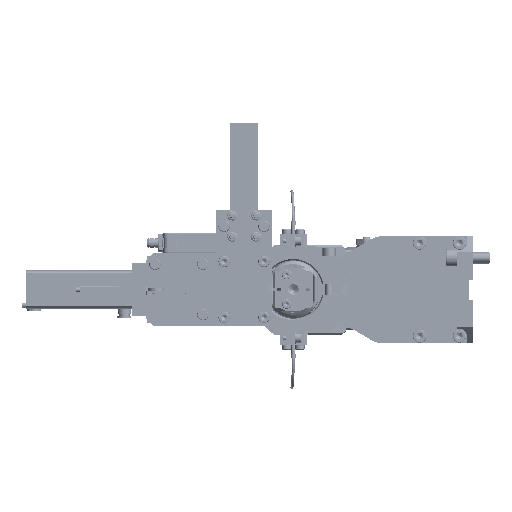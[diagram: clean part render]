
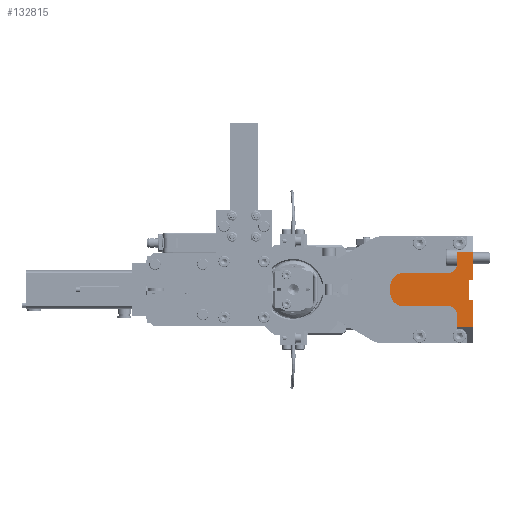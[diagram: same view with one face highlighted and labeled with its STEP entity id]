
A CAD part, top view. The second image highlights one B-rep face of the part: STEP entity #132815.
In plain terms, the highlighted planar face has unit normal (0, 0, 1).
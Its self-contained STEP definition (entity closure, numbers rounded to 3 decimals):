
#125579=CARTESIAN_POINT('',(123.,86.5,35.5));
#125580=VERTEX_POINT('',#125579);
#125587=CARTESIAN_POINT('',(123.,96.,35.5));
#125588=VERTEX_POINT('',#125587);
#125589=CARTESIAN_POINT('',(123.,86.5,35.5));
#125590=DIRECTION('',(0.,1.0,0.0));
#125591=VECTOR('',#125590,9.5);
#125592=LINE('',#125589,#125591);
#125593=EDGE_CURVE('',#125580,#125588,#125592,.T.);
#132014=CARTESIAN_POINT('',(135.,40.,35.5));
#132015=VERTEX_POINT('',#132014);
#132022=CARTESIAN_POINT('',(123.,40.,35.5));
#132023=VERTEX_POINT('',#132022);
#132024=CARTESIAN_POINT('',(135.,40.,35.5));
#132025=DIRECTION('',(-1.0,0.,0.0));
#132026=VECTOR('',#132025,12.);
#132027=LINE('',#132024,#132026);
#132028=EDGE_CURVE('',#132015,#132023,#132027,.T.);
#132098=CARTESIAN_POINT('',(135.,96.,35.5));
#132099=VERTEX_POINT('',#132098);
#132117=CARTESIAN_POINT('',(123.,96.,35.5));
#132118=DIRECTION('',(1.0,0.,0.));
#132119=VECTOR('',#132118,12.0);
#132120=LINE('',#132117,#132119);
#132121=EDGE_CURVE('',#125588,#132099,#132120,.T.);
#132315=CARTESIAN_POINT('',(135.,60.5,35.5));
#132316=VERTEX_POINT('',#132315);
#132323=CARTESIAN_POINT('',(135.,60.5,35.5));
#132324=DIRECTION('',(0.,-1.0,0.0));
#132325=VECTOR('',#132324,20.5);
#132326=LINE('',#132323,#132325);
#132327=EDGE_CURVE('',#132316,#132015,#132326,.T.);
#132351=CARTESIAN_POINT('',(135.,75.5,35.5));
#132352=VERTEX_POINT('',#132351);
#132367=CARTESIAN_POINT('',(135.,96.,35.5));
#132368=DIRECTION('',(0.,-1.0,0.));
#132369=VECTOR('',#132368,20.5);
#132370=LINE('',#132367,#132369);
#132371=EDGE_CURVE('',#132099,#132352,#132370,.T.);
#132392=CARTESIAN_POINT('',(132.,60.5,35.5));
#132393=VERTEX_POINT('',#132392);
#132394=CARTESIAN_POINT('',(132.,75.5,35.5));
#132395=VERTEX_POINT('',#132394);
#132396=CARTESIAN_POINT('',(132.,60.5,35.5));
#132397=DIRECTION('',(0.,1.0,0.0));
#132398=VECTOR('',#132397,15.0);
#132399=LINE('',#132396,#132398);
#132400=EDGE_CURVE('',#132393,#132395,#132399,.T.);
#132426=CARTESIAN_POINT('',(132.,75.5,35.5));
#132427=DIRECTION('',(1.0,0.,0.0));
#132428=VECTOR('',#132427,3.);
#132429=LINE('',#132426,#132428);
#132430=EDGE_CURVE('',#132395,#132352,#132429,.T.);
#132441=CARTESIAN_POINT('',(135.,60.5,35.5));
#132442=DIRECTION('',(-1.0,0.,0.0));
#132443=VECTOR('',#132442,3.0);
#132444=LINE('',#132441,#132443);
#132445=EDGE_CURVE('',#132316,#132393,#132444,.T.);
#132586=CARTESIAN_POINT('',(123.,49.5,35.5));
#132587=VERTEX_POINT('',#132586);
#132597=CARTESIAN_POINT('',(123.,40.,35.5));
#132598=DIRECTION('',(0.,1.0,0.));
#132599=VECTOR('',#132598,9.5);
#132600=LINE('',#132597,#132599);
#132601=EDGE_CURVE('',#132023,#132587,#132600,.T.);
#132622=CARTESIAN_POINT('',(73.,70.5,35.5));
#132623=VERTEX_POINT('',#132622);
#132631=CARTESIAN_POINT('',(73.0,65.5,35.5));
#132632=VERTEX_POINT('',#132631);
#132639=CARTESIAN_POINT('',(73.0,65.5,35.5));
#132640=DIRECTION('',(0.,1.0,0.0));
#132641=VECTOR('',#132640,5.0);
#132642=LINE('',#132639,#132641);
#132643=EDGE_CURVE('',#132632,#132623,#132642,.T.);
#132656=CARTESIAN_POINT('',(117.,80.5,35.5));
#132657=VERTEX_POINT('',#132656);
#132664=CARTESIAN_POINT('',(117.,86.5,35.5));
#132665=DIRECTION('',(0.,0.,1.0));
#132666=DIRECTION('',(0.707,-0.707,0.));
#132667=AXIS2_PLACEMENT_3D('',#132664,#132665,#132666);
#132668=CIRCLE('',#132667,6.0);
#132669=EDGE_CURVE('',#132657,#125580,#132668,.T.);
#132682=CARTESIAN_POINT('',(117.,55.5,35.5));
#132683=VERTEX_POINT('',#132682);
#132684=CARTESIAN_POINT('',(117.,49.5,35.5));
#132685=DIRECTION('',(0.,0.,1.));
#132686=DIRECTION('',(0.707,0.707,0.));
#132687=AXIS2_PLACEMENT_3D('',#132684,#132685,#132686);
#132688=CIRCLE('',#132687,6.0);
#132689=EDGE_CURVE('',#132587,#132683,#132688,.T.);
#132742=CARTESIAN_POINT('',(83.,55.5,35.5));
#132743=VERTEX_POINT('',#132742);
#132752=CARTESIAN_POINT('',(117.,55.5,35.5));
#132753=DIRECTION('',(-1.0,0.,0.));
#132754=VECTOR('',#132753,34.);
#132755=LINE('',#132752,#132754);
#132756=EDGE_CURVE('',#132683,#132743,#132755,.T.);
#132766=CARTESIAN_POINT('',(83.0,65.5,35.5));
#132767=DIRECTION('',(0.,0.,-1.0));
#132768=DIRECTION('',(-0.707,-0.707,0.));
#132769=AXIS2_PLACEMENT_3D('',#132766,#132767,#132768);
#132770=CIRCLE('',#132769,10.0);
#132771=EDGE_CURVE('',#132743,#132632,#132770,.T.);
#132779=CARTESIAN_POINT('',(129.773,68.,35.5));
#132780=DIRECTION('',(0.0,0.0,1.0));
#132781=DIRECTION('',(1.0,0.,0.0));
#132782=AXIS2_PLACEMENT_3D('',#132779,#132780,#132781);
#132783=PLANE('',#132782);
#132784=CARTESIAN_POINT('',(83.,80.5,35.5));
#132785=VERTEX_POINT('',#132784);
#132786=CARTESIAN_POINT('',(83.,70.5,35.5));
#132787=DIRECTION('',(0.,0.,-1.0));
#132788=DIRECTION('',(-0.707,0.707,0.));
#132789=AXIS2_PLACEMENT_3D('',#132786,#132787,#132788);
#132790=CIRCLE('',#132789,10.);
#132791=EDGE_CURVE('',#132623,#132785,#132790,.T.);
#132792=ORIENTED_EDGE('',*,*,#132791,.F.);
#132793=ORIENTED_EDGE('',*,*,#132643,.F.);
#132794=ORIENTED_EDGE('',*,*,#132771,.F.);
#132795=ORIENTED_EDGE('',*,*,#132756,.F.);
#132796=ORIENTED_EDGE('',*,*,#132689,.F.);
#132797=ORIENTED_EDGE('',*,*,#132601,.F.);
#132798=ORIENTED_EDGE('',*,*,#132028,.F.);
#132799=ORIENTED_EDGE('',*,*,#132327,.F.);
#132800=ORIENTED_EDGE('',*,*,#132445,.T.);
#132801=ORIENTED_EDGE('',*,*,#132400,.T.);
#132802=ORIENTED_EDGE('',*,*,#132430,.T.);
#132803=ORIENTED_EDGE('',*,*,#132371,.F.);
#132804=ORIENTED_EDGE('',*,*,#132121,.F.);
#132805=ORIENTED_EDGE('',*,*,#125593,.F.);
#132806=ORIENTED_EDGE('',*,*,#132669,.F.);
#132807=CARTESIAN_POINT('',(83.,80.5,35.5));
#132808=DIRECTION('',(1.0,0.,0.));
#132809=VECTOR('',#132808,34.0);
#132810=LINE('',#132807,#132809);
#132811=EDGE_CURVE('',#132785,#132657,#132810,.T.);
#132812=ORIENTED_EDGE('',*,*,#132811,.F.);
#132813=EDGE_LOOP('',(#132792,#132793,#132794,#132795,#132796,#132797,#132798,#132799,#132800,#132801,#132802,#132803,#132804,#132805,#132806,#132812));
#132814=FACE_OUTER_BOUND('',#132813,.T.);
#132815=ADVANCED_FACE('',(#132814),#132783,.T.);
